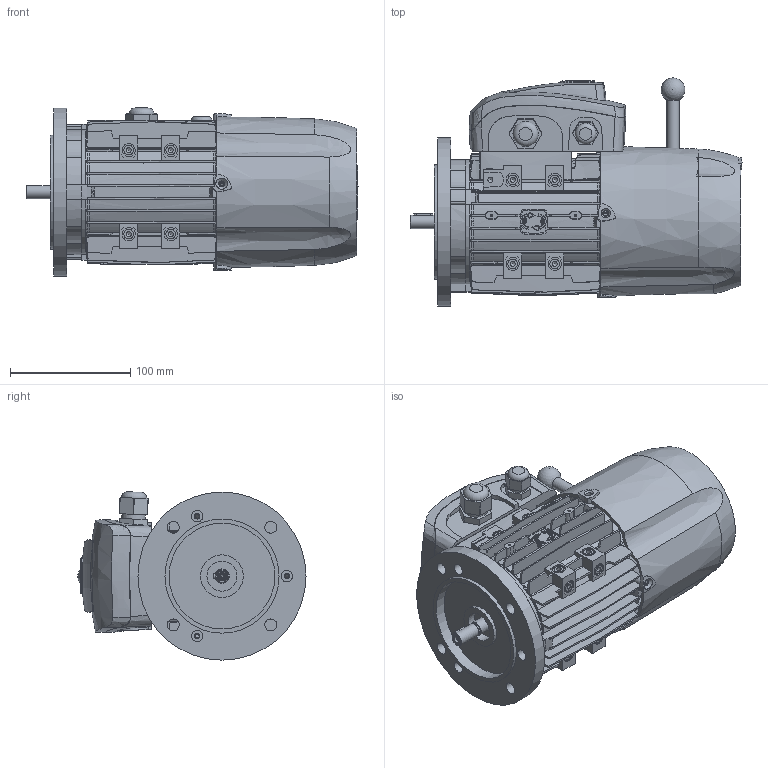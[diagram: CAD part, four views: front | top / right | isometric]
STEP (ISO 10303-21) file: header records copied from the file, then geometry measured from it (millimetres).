
FILE_DESCRIPTION((''),'2;1');
FILE_NAME('D:\htdocs\motive\source_step\M63.stp','2014-09-02T16:34:54',('ing.Casini'),(''),'Autodesk Inventor 2010','Autodesk Inventor 2010','');
FILE_SCHEMA(('AUTOMOTIVE_DESIGN { 1 0 10303 214 1 1 1 1 }'));
Length unit declared in the file: millimetre
Products named in the file (6): M63 Lighter motor Assly_14.08; BODY63; B563; SH63_With Key; TBOXATDC63_80; FCVATDC63
Assembly tree (5 placements, depth 2):
  M63 Lighter motor Assly_14.08
    BODY63
    B563
    SH63_With Key
    TBOXATDC63_80
    FCVATDC63
Bounding box: 276.46 x 189.92 x 140.2 mm (x, y, z)
Volume: 694913.1 mm3; surface area: 402829.2 mm2
Topology: 7 solids, 7 shells, 1868 faces, 5262 edges, 3507 vertices
Faces by surface type: plane 729, bspline 407, cylinder 366, cone 238, torus 127, sphere 1
Full cylindrical faces by diameter (mm): 2 x4, 3.3 x12, 4.2 x22, 4.3 x1, 4.7 x3, 5 x4, 5.4 x1, 8 x12, 9.5 x3, 10 x5, 10.418 x1, 10.6 x1, 11 x1, 11.6 x1, 11.984 x1, 12 x2, 13.85 x1, 16 x1, 20 x1, 24 x1, 25 x2, 32 x1, 35.5 x1, 39 x1, 88 x1, 93 x1, 95 x1, 96 x1, 97 x2, 98 x1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
Entity records: 86950 total; most frequent: CARTESIAN_POINT 42509, ORIENTED_EDGE 10162, DIRECTION 7692, EDGE_CURVE 5081, VERTEX_POINT 3463, AXIS2_PLACEMENT_3D 2833, EDGE_LOOP 2164, VECTOR 2026
